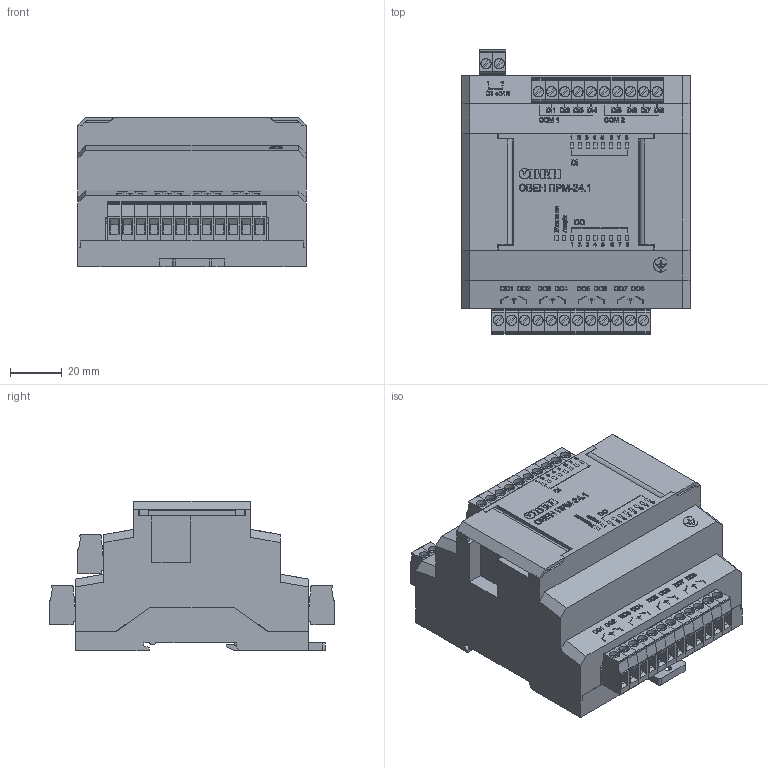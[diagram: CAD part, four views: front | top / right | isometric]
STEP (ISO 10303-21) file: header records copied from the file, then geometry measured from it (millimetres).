
FILE_DESCRIPTION (( 'STEP AP214' ), '1' );
FILE_NAME ('3D Ìîäåëü ÎÂÅÍ ÏÐÌ-24.1.STEP', '2019-12-05T10:09:20', ( '' ), ( '' ), 'SwSTEP 2.0', 'SolidWorks 2015', '' );
FILE_SCHEMA (( 'AUTOMOTIVE_DESIGN' ));
Length unit declared in the file: millimetre
Products named in the file (9): Êîðïóñ ÏÐÌ-24.1_âåðõ; Ðàçúåì øòåêåðíûé íà ïëàòó 5.08; Ðàçúåì øòåêåðíûé 2-5.08; 婰膲僗闉 玿200; Êðûøêà; 3D Ìîäåëü ÎÂÅÍ ÏÐÌ-24.1; 抔樦憵 2-5,08; Êîðïóñ ÏÐ-Ì; 抔樦憵 2edgk-5,08-1p
Assembly tree (33 placements, depth 3):
  3D Ìîäåëü ÎÂÅÍ ÏÐÌ-24.1
    Êîðïóñ ÏÐÌ-24.1_âåðõ
    Êîðïóñ ÏÐ-Ì
    Êðûøêà  x2
    婰膲僗闉 玿200
    Ðàçúåì øòåêåðíûé 2-5.08  x12
      Ðàçúåì øòåêåðíûé íà ïëàòó 5.08
    抔樦憵 2-5,08  x12
      抔樦憵 2edgk-5,08-1p
Bounding box: 88 x 109.7 x 57.52 mm (x, y, z)
Volume: 152104.4 mm3; surface area: 101822 mm2
Topology: 54 solids, 54 shells, 4864 faces, 12557 edges, 8272 vertices
Faces by surface type: plane 3683, bspline 805, cylinder 352, cone 24
Full cylindrical faces by diameter (mm): 0.731 x4, 1.4 x24, 2.8 x48, 3.8 x24, 4 x24
Entity records: 143101 total; most frequent: CARTESIAN_POINT 57856, ORIENTED_EDGE 14094, DIRECTION 9240, EDGE_CURVE 7047, LINE 5250, VECTOR 5250, VERTEX_POINT 4697, EDGE_LOOP 2966
